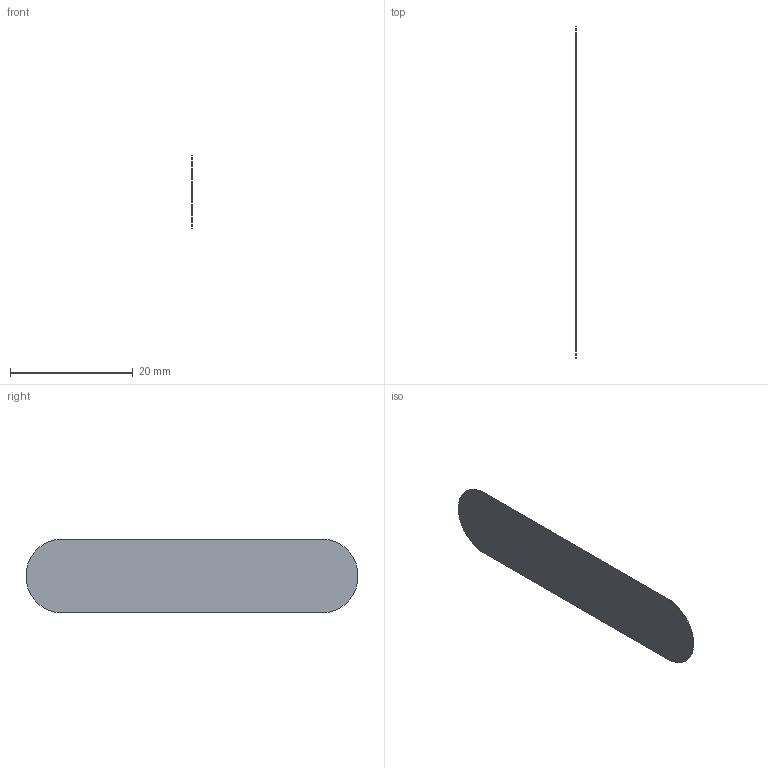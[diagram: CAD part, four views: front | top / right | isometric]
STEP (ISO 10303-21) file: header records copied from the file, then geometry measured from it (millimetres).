
FILE_DESCRIPTION(('Open CASCADE Model'),'2;1');
FILE_NAME('Open CASCADE Shape Model','2026-09-15T14:24:25',('Author'),( 'Open CASCADE'),'Open CASCADE STEP processor 7.7','Open CASCADE 7.7' ,'Unknown');
FILE_SCHEMA(('AUTOMOTIVE_DESIGN { 1 0 10303 214 1 1 1 1 }'));
Length unit declared in the file: millimetre
Products named in the file (1): Open CASCADE STEP translator 7.7 1
Bounding box: 0.1 x 54 x 12 mm (x, y, z)
Volume: 61.8 mm3; surface area: 1248.4 mm2
Topology: 1 solids, 1 shells, 10 faces, 24 edges, 16 vertices
Faces by surface type: plane 6, cylinder 4
Entity records: 642 total; most frequent: CARTESIAN_POINT 147, DIRECTION 94, LINE 56, VECTOR 56, ORIENTED_EDGE 48, PCURVE 48, DEFINITIONAL_REPRESENTATION 48, EDGE_CURVE 24
